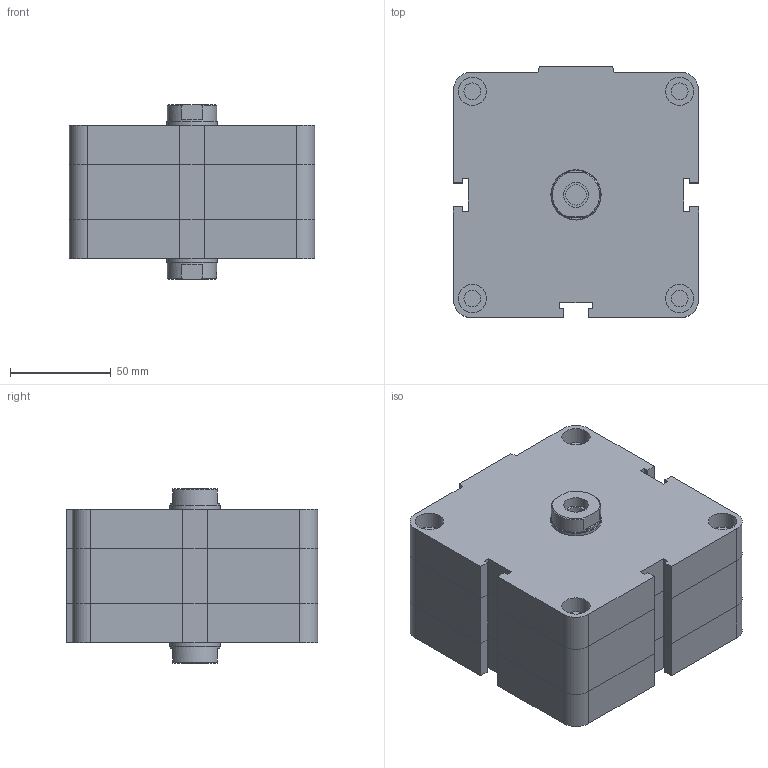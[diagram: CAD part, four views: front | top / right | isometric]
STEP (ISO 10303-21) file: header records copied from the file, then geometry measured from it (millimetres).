
FILE_DESCRIPTION((''),'2;1');
FILE_NAME('I:\Area Tecnica\Disegni\VARIE-3D\Componenti\EUROPE\15##_###_####_03_#\1581_100_0000_03_1.iam.stp','2009-04-20T14:38:22',(''),(''),'Autodesk Inventor 2009','Autodesk Inventor 2009','');
FILE_SCHEMA(('AUTOMOTIVE_DESIGN { 1 0 10303 214 1 1 1 1 }'));
Length unit declared in the file: millimetre
Products named in the file (3): 1581_100_0000_03_1; 1581_100_0000_03_1_C; 1561_100_0000_03_1_S
Assembly tree (2 placements, depth 2):
  1581_100_0000_03_1
    1581_100_0000_03_1_C
    1561_100_0000_03_1_S
Bounding box: 122 x 125 x 86.5 mm (x, y, z)
Volume: 958589.3 mm3; surface area: 85824.1 mm2
Topology: 2 solids, 2 shells, 174 faces, 379 edges, 231 vertices
Faces by surface type: plane 114, bspline 29, cylinder 25, cone 6
Full cylindrical faces by diameter (mm): 8.376 x4, 10.106 x1, 12.3 x1, 14 x4, 24.5 x2, 25 x1
Entity records: 4758 total; most frequent: CARTESIAN_POINT 1020, DIRECTION 708, ORIENTED_EDGE 676, EDGE_CURVE 338, VECTOR 252, LINE 252, AXIS2_PLACEMENT_3D 228, EDGE_LOOP 226
